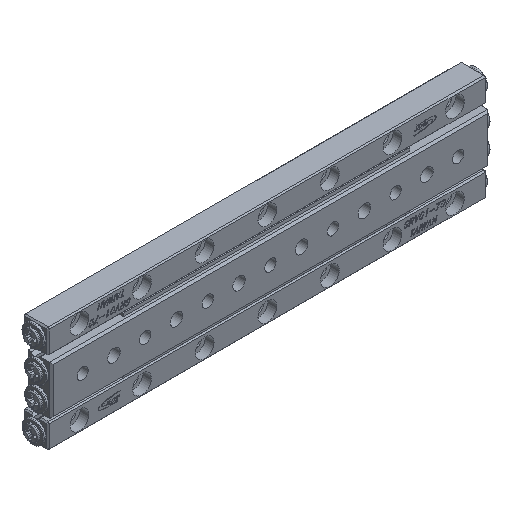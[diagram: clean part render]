
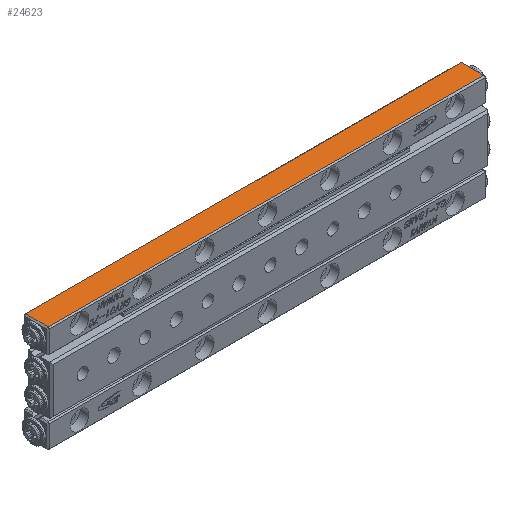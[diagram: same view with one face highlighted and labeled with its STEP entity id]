
A CAD part, isometric view. The second image highlights one B-rep face of the part: STEP entity #24623.
In plain terms, the highlighted planar face has unit normal (0, 0, 1) as drawn and (0, 0, -1) by its records, which use the part's own axes.
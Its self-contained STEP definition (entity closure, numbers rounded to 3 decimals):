
#541 = ORIENTED_EDGE ( 'NONE', *, *, #29138, .T. ) ;
#2654 = DIRECTION ( 'NONE',  ( -1., 0., 0. ) ) ;
#3737 = LINE ( 'NONE', #28127, #35982 ) ;
#4085 = ORIENTED_EDGE ( 'NONE', *, *, #11828, .T. ) ;
#5098 = EDGE_CURVE ( 'NONE', #32431, #21564, #33527, .T. ) ;
#6927 = CARTESIAN_POINT ( 'NONE',  ( -34.8, -1.8, 0. ) ) ;
#8794 = CARTESIAN_POINT ( 'NONE',  ( -34.8, 1.8, 0. ) ) ;
#9449 = DIRECTION ( 'NONE',  ( 0., 1., 0. ) ) ;
#10165 = DIRECTION ( 'NONE',  ( 0., -1., 0. ) ) ;
#11483 = CARTESIAN_POINT ( 'NONE',  ( -35., -1.8, 0. ) ) ;
#11766 = ORIENTED_EDGE ( 'NONE', *, *, #12302, .T. ) ;
#11825 = DIRECTION ( 'NONE',  ( 0., 1., 0. ) ) ;
#11828 = EDGE_CURVE ( 'NONE', #26437, #32431, #27184, .T. ) ;
#12042 = FACE_OUTER_BOUND ( 'NONE', #13618, .T. ) ;
#12302 = EDGE_CURVE ( 'NONE', #21564, #32557, #3737, .T. ) ;
#13618 = EDGE_LOOP ( 'NONE', ( #20550, #11766, #541, #4085 ) ) ;
#14522 = CARTESIAN_POINT ( 'NONE',  ( -35., 1.8, 0. ) ) ;
#14889 = CARTESIAN_POINT ( 'NONE',  ( 34.8, 1.8, 0. ) ) ;
#15002 = CARTESIAN_POINT ( 'NONE',  ( -35., -2., 0. ) ) ;
#15107 = DIRECTION ( 'NONE',  ( 1., 0., 0. ) ) ;
#19258 = VECTOR ( 'NONE', #11825, 1000. ) ;
#20547 = AXIS2_PLACEMENT_3D ( 'NONE', #15002, #36831, #9449 ) ;
#20550 = ORIENTED_EDGE ( 'NONE', *, *, #5098, .T. ) ;
#21370 = CARTESIAN_POINT ( 'NONE',  ( -34.8, 2., 0. ) ) ;
#21564 = VERTEX_POINT ( 'NONE', #14889 ) ;
#24214 = PLANE ( 'NONE',  #20547 ) ;
#24623 = ADVANCED_FACE ( 'NONE', ( #12042 ), #24214, .T. ) ;
#26437 = VERTEX_POINT ( 'NONE', #6927 ) ;
#27184 = LINE ( 'NONE', #21370, #19258 ) ;
#28127 = CARTESIAN_POINT ( 'NONE',  ( 34.8, -2., 0. ) ) ;
#28736 = CARTESIAN_POINT ( 'NONE',  ( 34.8, -1.8, 0. ) ) ;
#29138 = EDGE_CURVE ( 'NONE', #32557, #26437, #30038, .T. ) ;
#29668 = VECTOR ( 'NONE', #2654, 1000. ) ;
#30038 = LINE ( 'NONE', #11483, #29668 ) ;
#32431 = VERTEX_POINT ( 'NONE', #8794 ) ;
#32557 = VERTEX_POINT ( 'NONE', #28736 ) ;
#33527 = LINE ( 'NONE', #14522, #37953 ) ;
#35982 = VECTOR ( 'NONE', #10165, 1000. ) ;
#36831 = DIRECTION ( 'NONE',  ( 0., 0., -1. ) ) ;
#37953 = VECTOR ( 'NONE', #15107, 1000. ) ;
